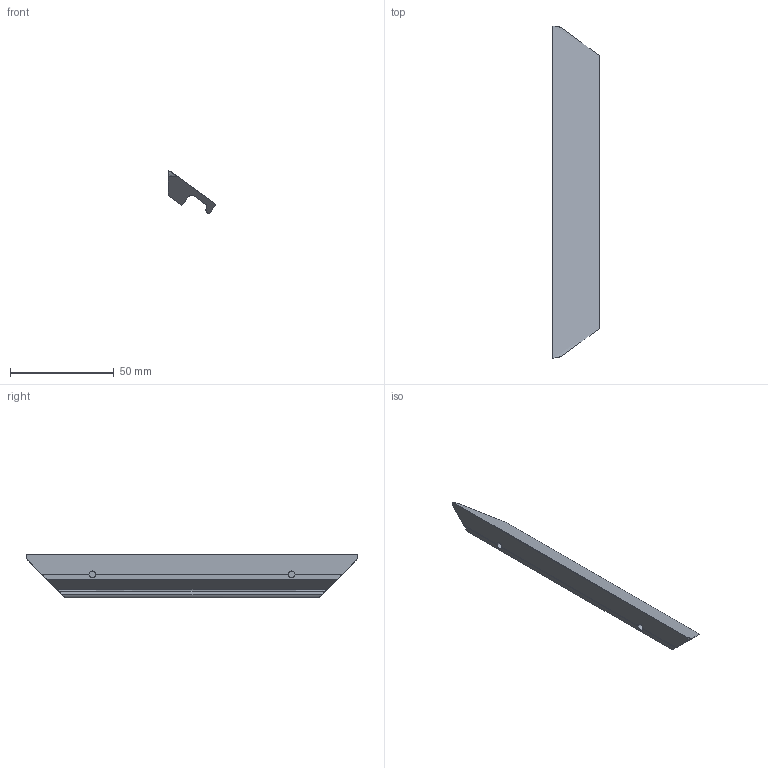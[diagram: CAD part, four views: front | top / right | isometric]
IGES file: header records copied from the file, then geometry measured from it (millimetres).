
Start section: C
Global section: file name: 8319-160.igs; native system: By Siemens PLM Incorporated; preprocessor: XPlus GENERIC/IGES 16.0.42; author: Author; organization: Title; date: 20200903.131524; units: millimetre
Bounding box: 22.8 x 160 x 21.01 mm (x, y, z)
Surface area: 11181.7 mm2 (no closed solid volume)
Topology: 0 solids, 0 shells, 31 faces, 178 edges, 178 vertices
Faces by surface type: bspline 31
